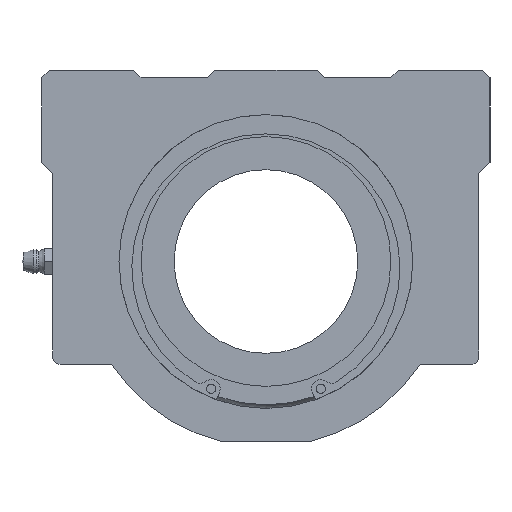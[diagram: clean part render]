
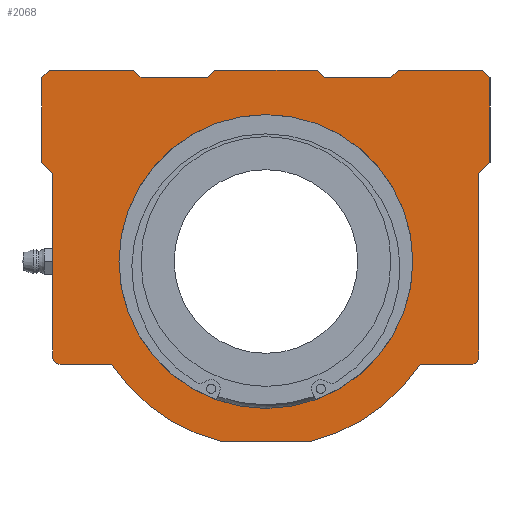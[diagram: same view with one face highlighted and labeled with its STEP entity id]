
A CAD part, left-side view. The second image highlights one B-rep face of the part: STEP entity #2068.
In plain terms, the highlighted planar face has unit normal (-1, 0, 0).
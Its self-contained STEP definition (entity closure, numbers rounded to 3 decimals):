
#1170=CARTESIAN_POINT('',(0.0,40.0,0.));
#1171=VERTEX_POINT('',#1170);
#1172=CARTESIAN_POINT('',(0.0,0.0,0.0));
#1173=DIRECTION('',(1.0,0.0,0.0));
#1174=DIRECTION('',(0.0,-1.0,0.0));
#1175=AXIS2_PLACEMENT_3D('',#1172,#1173,#1174);
#1176=CIRCLE('',#1175,40.0);
#1177=EDGE_CURVE('',#1171,#1171,#1176,.T.);
#1394=CARTESIAN_POINT('',(0.0,61.0,50.));
#1395=VERTEX_POINT('',#1394);
#1410=CARTESIAN_POINT('',(0.0,61.,27.));
#1411=VERTEX_POINT('',#1410);
#1418=CARTESIAN_POINT('',(0.0,61.,27.));
#1419=DIRECTION('',(0.0,0.0,1.0));
#1420=VECTOR('',#1419,23.);
#1421=LINE('',#1418,#1420);
#1422=EDGE_CURVE('',#1411,#1395,#1421,.T.);
#1432=CARTESIAN_POINT('',(0.0,58.0,-26.));
#1433=VERTEX_POINT('',#1432);
#1442=CARTESIAN_POINT('',(0.0,58.,24.));
#1443=VERTEX_POINT('',#1442);
#1444=CARTESIAN_POINT('',(0.0,58.0,-26.));
#1445=DIRECTION('',(0.0,0.0,1.0));
#1446=VECTOR('',#1445,50.);
#1447=LINE('',#1444,#1446);
#1448=EDGE_CURVE('',#1433,#1443,#1447,.T.);
#1533=CARTESIAN_POINT('',(0.0,12.217,-49.));
#1534=VERTEX_POINT('',#1533);
#1541=CARTESIAN_POINT('',(0.0,42.027,-28.));
#1542=VERTEX_POINT('',#1541);
#1543=CARTESIAN_POINT('',(0.0,0.0,0.0));
#1544=DIRECTION('',(1.,0.0,0.0));
#1545=DIRECTION('',(0.0,0.242,-0.97));
#1546=AXIS2_PLACEMENT_3D('',#1543,#1544,#1545);
#1547=CIRCLE('',#1546,50.5);
#1548=EDGE_CURVE('',#1534,#1542,#1547,.T.);
#1572=CARTESIAN_POINT('',(0.0,-12.217,-49.));
#1573=VERTEX_POINT('',#1572);
#1580=CARTESIAN_POINT('',(0.0,-12.217,-49.));
#1581=DIRECTION('',(0.0,1.0,0.0));
#1582=VECTOR('',#1581,24.434);
#1583=LINE('',#1580,#1582);
#1584=EDGE_CURVE('',#1573,#1534,#1583,.T.);
#1604=CARTESIAN_POINT('',(0.0,-42.027,-28.));
#1605=VERTEX_POINT('',#1604);
#1612=CARTESIAN_POINT('',(0.0,0.0,0.0));
#1613=DIRECTION('',(1.,0.0,0.0));
#1614=DIRECTION('',(0.0,0.242,-0.97));
#1615=AXIS2_PLACEMENT_3D('',#1612,#1613,#1614);
#1616=CIRCLE('',#1615,50.5);
#1617=EDGE_CURVE('',#1605,#1573,#1616,.T.);
#1628=CARTESIAN_POINT('',(0.0,-56.0,-28.));
#1629=VERTEX_POINT('',#1628);
#1638=CARTESIAN_POINT('',(0.0,-56.0,-28.));
#1639=DIRECTION('',(0.0,1.0,0.0));
#1640=VECTOR('',#1639,13.973);
#1641=LINE('',#1638,#1640);
#1642=EDGE_CURVE('',#1629,#1605,#1641,.T.);
#1665=CARTESIAN_POINT('',(0.0,-61.0,50.0));
#1666=VERTEX_POINT('',#1665);
#1675=CARTESIAN_POINT('',(0.0,-61.,27.));
#1676=VERTEX_POINT('',#1675);
#1677=CARTESIAN_POINT('',(0.0,-61.0,50.0));
#1678=DIRECTION('',(0.0,0.0,-1.0));
#1679=VECTOR('',#1678,23.);
#1680=LINE('',#1677,#1679);
#1681=EDGE_CURVE('',#1666,#1676,#1680,.T.);
#1707=CARTESIAN_POINT('',(0.0,-59.0,52.));
#1708=VERTEX_POINT('',#1707);
#1723=CARTESIAN_POINT('',(0.0,-36.,52.));
#1724=VERTEX_POINT('',#1723);
#1731=CARTESIAN_POINT('',(0.0,-36.,52.));
#1732=DIRECTION('',(0.0,-1.0,0.0));
#1733=VECTOR('',#1732,23.);
#1734=LINE('',#1731,#1733);
#1735=EDGE_CURVE('',#1724,#1708,#1734,.T.);
#1758=CARTESIAN_POINT('',(0.0,-59.0,52.));
#1759=DIRECTION('',(0.0,-0.707,-0.707));
#1760=VECTOR('',#1759,2.828);
#1761=LINE('',#1758,#1760);
#1762=EDGE_CURVE('',#1708,#1666,#1761,.T.);
#1773=CARTESIAN_POINT('',(0.0,59.,52.));
#1774=VERTEX_POINT('',#1773);
#1783=CARTESIAN_POINT('',(0.0,36.,52.));
#1784=VERTEX_POINT('',#1783);
#1785=CARTESIAN_POINT('',(0.0,59.,52.));
#1786=DIRECTION('',(0.0,-1.0,0.0));
#1787=VECTOR('',#1786,23.);
#1788=LINE('',#1785,#1787);
#1789=EDGE_CURVE('',#1774,#1784,#1788,.T.);
#1826=CARTESIAN_POINT('',(0.0,61.0,50.));
#1827=DIRECTION('',(0.0,-0.707,0.707));
#1828=VECTOR('',#1827,2.828);
#1829=LINE('',#1826,#1828);
#1830=EDGE_CURVE('',#1395,#1774,#1829,.T.);
#1841=CARTESIAN_POINT('',(0.0,-34.0,50.0));
#1842=VERTEX_POINT('',#1841);
#1843=CARTESIAN_POINT('',(0.0,-34.0,50.0));
#1844=DIRECTION('',(0.0,-0.707,0.707));
#1845=VECTOR('',#1844,2.828);
#1846=LINE('',#1843,#1845);
#1847=EDGE_CURVE('',#1842,#1724,#1846,.T.);
#1872=CARTESIAN_POINT('',(0.0,34.,50.0));
#1873=VERTEX_POINT('',#1872);
#1874=CARTESIAN_POINT('',(0.0,36.,52.));
#1875=DIRECTION('',(0.0,-0.707,-0.707));
#1876=VECTOR('',#1875,2.828);
#1877=LINE('',#1874,#1876);
#1878=EDGE_CURVE('',#1784,#1873,#1877,.T.);
#1903=CARTESIAN_POINT('',(0.0,-58.,24.));
#1904=VERTEX_POINT('',#1903);
#1905=CARTESIAN_POINT('',(0.0,-61.,27.));
#1906=DIRECTION('',(0.0,0.707,-0.707));
#1907=VECTOR('',#1906,4.243);
#1908=LINE('',#1905,#1907);
#1909=EDGE_CURVE('',#1676,#1904,#1908,.T.);
#1934=CARTESIAN_POINT('',(0.0,58.,24.));
#1935=DIRECTION('',(0.0,0.707,0.707));
#1936=VECTOR('',#1935,4.243);
#1937=LINE('',#1934,#1936);
#1938=EDGE_CURVE('',#1443,#1411,#1937,.T.);
#1958=CARTESIAN_POINT('',(0.0,-58.0,-26.));
#1959=VERTEX_POINT('',#1958);
#1973=CARTESIAN_POINT('',(0.0,-58.,24.));
#1974=DIRECTION('',(0.0,0.0,-1.0));
#1975=VECTOR('',#1974,50.0);
#1976=LINE('',#1973,#1975);
#1977=EDGE_CURVE('',#1904,#1959,#1976,.T.);
#1982=CARTESIAN_POINT('',(0.0,0.,6.962));
#1983=DIRECTION('',(1.0,0.0,0.0));
#1984=DIRECTION('',(0.0,0.0,-1.0));
#1985=AXIS2_PLACEMENT_3D('',#1982,#1983,#1984);
#1986=PLANE('',#1985);
#1987=CARTESIAN_POINT('',(0.0,56.0,-28.));
#1988=VERTEX_POINT('',#1987);
#1989=CARTESIAN_POINT('',(0.0,56.0,-26.));
#1990=DIRECTION('',(1.0,0.0,0.0));
#1991=DIRECTION('',(0.0,0.707,-0.707));
#1992=AXIS2_PLACEMENT_3D('',#1989,#1990,#1991);
#1993=CIRCLE('',#1992,2.);
#1994=EDGE_CURVE('',#1988,#1433,#1993,.T.);
#1995=ORIENTED_EDGE('',*,*,#1994,.F.);
#1996=CARTESIAN_POINT('',(0.0,42.027,-28.));
#1997=DIRECTION('',(0.0,1.0,0.0));
#1998=VECTOR('',#1997,13.973);
#1999=LINE('',#1996,#1998);
#2000=EDGE_CURVE('',#1542,#1988,#1999,.T.);
#2001=ORIENTED_EDGE('',*,*,#2000,.F.);
#2002=ORIENTED_EDGE('',*,*,#1548,.F.);
#2003=ORIENTED_EDGE('',*,*,#1584,.F.);
#2004=ORIENTED_EDGE('',*,*,#1617,.F.);
#2005=ORIENTED_EDGE('',*,*,#1642,.F.);
#2006=CARTESIAN_POINT('',(0.0,-56.0,-26.));
#2007=DIRECTION('',(1.0,0.0,0.0));
#2008=DIRECTION('',(0.0,-0.707,-0.707));
#2009=AXIS2_PLACEMENT_3D('',#2006,#2007,#2008);
#2010=CIRCLE('',#2009,2.);
#2011=EDGE_CURVE('',#1959,#1629,#2010,.T.);
#2012=ORIENTED_EDGE('',*,*,#2011,.F.);
#2013=ORIENTED_EDGE('',*,*,#1977,.F.);
#2014=ORIENTED_EDGE('',*,*,#1909,.F.);
#2015=ORIENTED_EDGE('',*,*,#1681,.F.);
#2016=ORIENTED_EDGE('',*,*,#1762,.F.);
#2017=ORIENTED_EDGE('',*,*,#1735,.F.);
#2018=ORIENTED_EDGE('',*,*,#1847,.F.);
#2019=CARTESIAN_POINT('',(0.0,-16.,50.0));
#2020=VERTEX_POINT('',#2019);
#2021=CARTESIAN_POINT('',(0.0,-16.,50.0));
#2022=DIRECTION('',(0.0,-1.0,0.0));
#2023=VECTOR('',#2022,18.);
#2024=LINE('',#2021,#2023);
#2025=EDGE_CURVE('',#2020,#1842,#2024,.T.);
#2026=ORIENTED_EDGE('',*,*,#2025,.F.);
#2027=CARTESIAN_POINT('',(0.0,-14.,52.));
#2028=VERTEX_POINT('',#2027);
#2029=CARTESIAN_POINT('',(0.0,-14.,52.));
#2030=DIRECTION('',(0.0,-0.707,-0.707));
#2031=VECTOR('',#2030,2.828);
#2032=LINE('',#2029,#2031);
#2033=EDGE_CURVE('',#2028,#2020,#2032,.T.);
#2034=ORIENTED_EDGE('',*,*,#2033,.F.);
#2035=CARTESIAN_POINT('',(0.0,14.,52.0));
#2036=VERTEX_POINT('',#2035);
#2037=CARTESIAN_POINT('',(0.0,14.,52.0));
#2038=DIRECTION('',(0.0,-1.0,0.0));
#2039=VECTOR('',#2038,28.);
#2040=LINE('',#2037,#2039);
#2041=EDGE_CURVE('',#2036,#2028,#2040,.T.);
#2042=ORIENTED_EDGE('',*,*,#2041,.F.);
#2043=CARTESIAN_POINT('',(0.0,16.,50.0));
#2044=VERTEX_POINT('',#2043);
#2045=CARTESIAN_POINT('',(0.0,16.,50.0));
#2046=DIRECTION('',(0.0,-0.707,0.707));
#2047=VECTOR('',#2046,2.828);
#2048=LINE('',#2045,#2047);
#2049=EDGE_CURVE('',#2044,#2036,#2048,.T.);
#2050=ORIENTED_EDGE('',*,*,#2049,.F.);
#2051=CARTESIAN_POINT('',(0.0,34.,50.0));
#2052=DIRECTION('',(0.0,-1.0,0.0));
#2053=VECTOR('',#2052,18.);
#2054=LINE('',#2051,#2053);
#2055=EDGE_CURVE('',#1873,#2044,#2054,.T.);
#2056=ORIENTED_EDGE('',*,*,#2055,.F.);
#2057=ORIENTED_EDGE('',*,*,#1878,.F.);
#2058=ORIENTED_EDGE('',*,*,#1789,.F.);
#2059=ORIENTED_EDGE('',*,*,#1830,.F.);
#2060=ORIENTED_EDGE('',*,*,#1422,.F.);
#2061=ORIENTED_EDGE('',*,*,#1938,.F.);
#2062=ORIENTED_EDGE('',*,*,#1448,.F.);
#2063=EDGE_LOOP('',(#1995,#2001,#2002,#2003,#2004,#2005,#2012,#2013,#2014,#2015,#2016,#2017,#2018,#2026,#2034,#2042,#2050,#2056,#2057,#2058,#2059,#2060,#2061,#2062));
#2064=FACE_OUTER_BOUND('',#2063,.T.);
#2065=ORIENTED_EDGE('',*,*,#1177,.T.);
#2066=EDGE_LOOP('',(#2065));
#2067=FACE_BOUND('',#2066,.T.);
#2068=ADVANCED_FACE('',(#2064,#2067),#1986,.F.);
